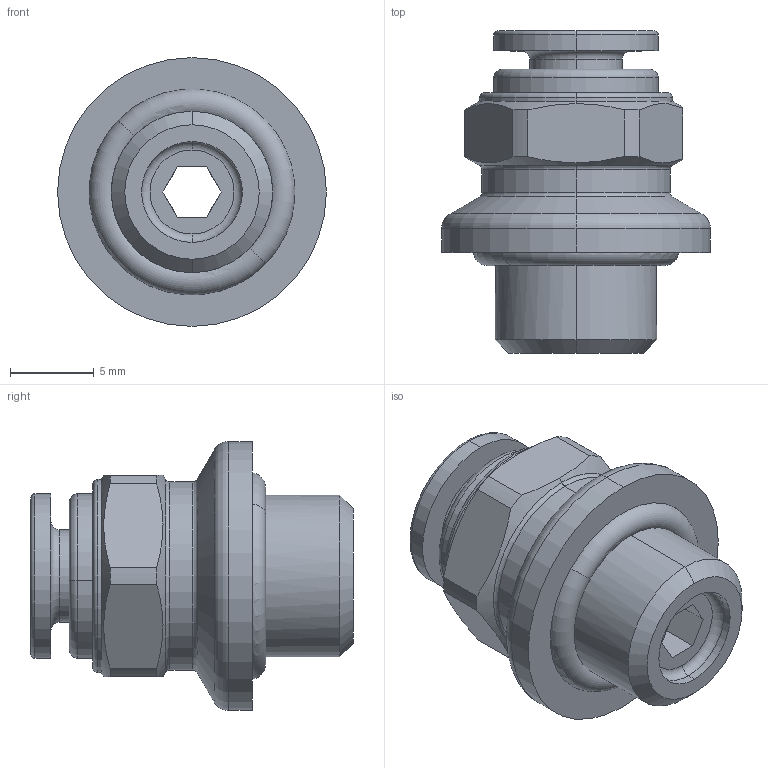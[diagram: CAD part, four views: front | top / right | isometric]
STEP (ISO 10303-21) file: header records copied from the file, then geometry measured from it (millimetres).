
FILE_DESCRIPTION (( 'STEP AP214' ), '1' );
FILE_NAME ('5302000001A.STEP', '2024-04-05T12:03:05', ( '' ), ( '' ), 'SwSTEP 2.0', 'SolidWorks 2020', '' );
FILE_SCHEMA (( 'AUTOMOTIVE_DESIGN' ));
Length unit declared in the file: millimetre
Products named in the file (1): 5302000001A
Bounding box: 16 x 19.2 x 16 mm (x, y, z)
Volume: 1720.1 mm3; surface area: 1345.4 mm2
Topology: 1 solids, 1 shells, 116 faces, 280 edges, 176 vertices
Faces by surface type: plane 47, cylinder 23, torus 20, bspline 14, cone 12
Entity records: 5248 total; most frequent: CARTESIAN_POINT 1297, ORIENTED_EDGE 560, DIRECTION 524, EDGE_CURVE 280, AXIS2_PLACEMENT_3D 195, VERTEX_POINT 176, LINE 134, VECTOR 134
